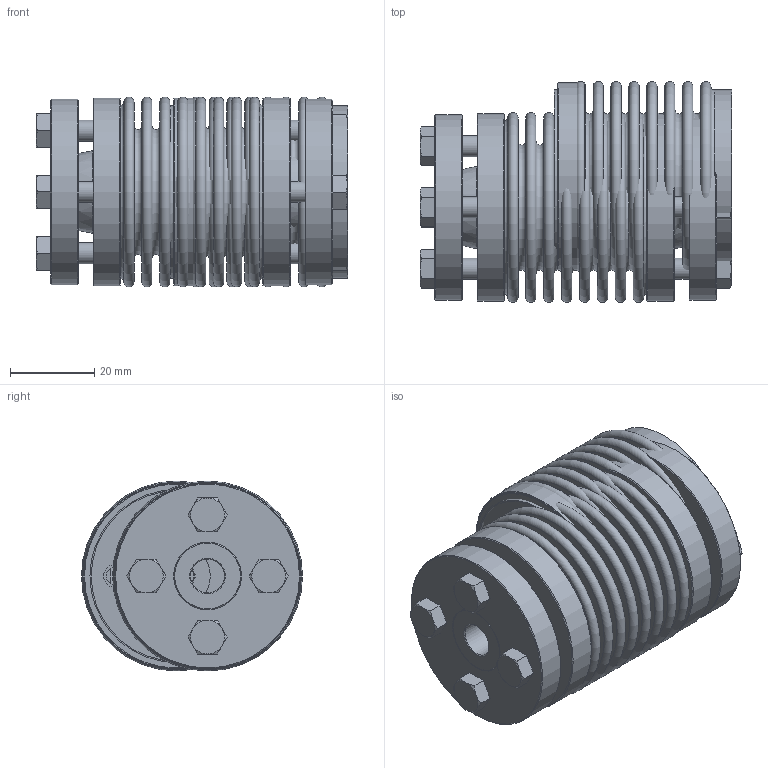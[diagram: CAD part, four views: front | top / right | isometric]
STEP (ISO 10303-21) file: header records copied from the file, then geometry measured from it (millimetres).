
FILE_DESCRIPTION( ( 'Unknown' ), '1' );
FILE_NAME( 'C:/Dokumente und Einstellungen/Sven/Desktop/homepage/cad - homepage/KB6/KB6-18-73.stp', 'Unknown', ( 'Unknown' ), ( 'Unknown' ), 'XStep 1.0', 'Unknown', ' ' );
FILE_SCHEMA( ( 'automotive_design' ) );
Length unit declared in the file: millimetre
Products named in the file (5): Assem1; Hex Screw GradeC_DIN_ISO 4018 - M5 x 12-NN_0; BA18_Standard_0; BL18_Standard; DR18_Standard_0
Bounding box: 73.93 x 52.37 x 45 mm (x, y, z)
Volume: 71307.6 mm3; surface area: 96770.2 mm2
Topology: 17 solids, 17 shells, 367 faces, 711 edges, 450 vertices
Faces by surface type: plane 160, cone 90, torus 64, cylinder 53
Full cylindrical faces by diameter (mm): 4.2 x12, 5 x9, 5.5 x12, 8 x3, 19.526 x3, 40.4 x4, 41 x4, 44 x3, 44.5 x3
Entity records: 3132 total; most frequent: DIRECTION 484, CARTESIAN_POINT 419, ORIENTED_EDGE 270, AXIS2_PLACEMENT_3D 236, EDGE_LOOP 224, FACE_OUTER_BOUND 160, EDGE_CURVE 135, VERTEX_POINT 123
